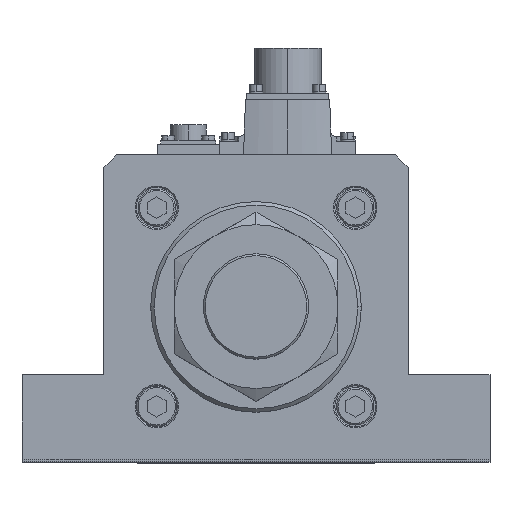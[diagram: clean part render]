
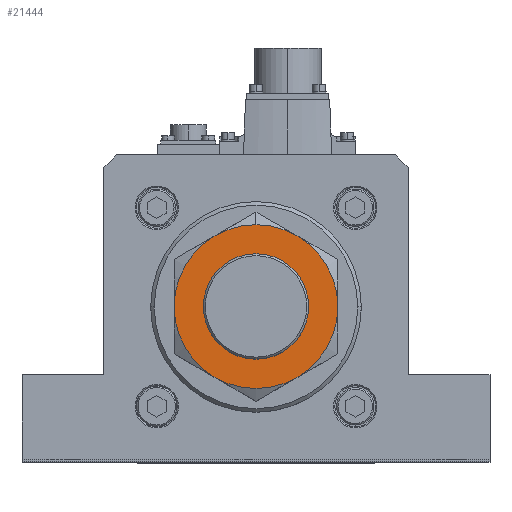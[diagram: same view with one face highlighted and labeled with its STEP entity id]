
A CAD part, top view. The second image highlights one B-rep face of the part: STEP entity #21444.
In plain terms, the highlighted planar face has unit normal (0, 0, 1).
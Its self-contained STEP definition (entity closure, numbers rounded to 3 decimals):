
#371 = DIRECTION ( 'NONE',  ( 0., 0., -1. ) ) ;
#716 = DIRECTION ( 'NONE',  ( 0., 0., -1. ) ) ;
#942 = DIRECTION ( 'NONE',  ( 0., 1., 0. ) ) ;
#1567 = CARTESIAN_POINT ( 'NONE',  ( -17.5, -30.311, 27. ) ) ;
#1620 = AXIS2_PLACEMENT_3D ( 'NONE', #5878, #21234, #39231 ) ;
#1946 = VERTEX_POINT ( 'NONE', #10734 ) ;
#2345 = EDGE_CURVE ( 'NONE', #25939, #32461, #14677, .T. ) ;
#2357 = VERTEX_POINT ( 'NONE', #25024 ) ;
#3989 = FACE_OUTER_BOUND ( 'NONE', #8527, .T. ) ;
#4010 = DIRECTION ( 'NONE',  ( 0., 0., -1. ) ) ;
#4357 = CARTESIAN_POINT ( 'NONE',  ( -17.5, 30.311, 27. ) ) ;
#5704 = EDGE_CURVE ( 'NONE', #1946, #18834, #6729, .T. ) ;
#5714 = ORIENTED_EDGE ( 'NONE', *, *, #2345, .F. ) ;
#5719 = DIRECTION ( 'NONE',  ( 0., 0., 1. ) ) ;
#5878 = CARTESIAN_POINT ( 'NONE',  ( 0., 0., 27. ) ) ;
#6729 = CIRCLE ( 'NONE', #21821, 35. ) ;
#7532 = ORIENTED_EDGE ( 'NONE', *, *, #13418, .F. ) ;
#8037 = VERTEX_POINT ( 'NONE', #33394 ) ;
#8527 = EDGE_LOOP ( 'NONE', ( #24398, #11870, #5714, #33192, #12635, #18359, #16218 ) ) ;
#8664 = EDGE_CURVE ( 'NONE', #18834, #21176, #22762, .T. ) ;
#10405 = CARTESIAN_POINT ( 'NONE',  ( 0., 0., 27. ) ) ;
#10623 = DIRECTION ( 'NONE',  ( 0., 0., 1. ) ) ;
#10734 = CARTESIAN_POINT ( 'NONE',  ( 17.5, -30.311, 27. ) ) ;
#11305 = AXIS2_PLACEMENT_3D ( 'NONE', #23068, #10623, #31857 ) ;
#11870 = ORIENTED_EDGE ( 'NONE', *, *, #33221, .F. ) ;
#12551 = CARTESIAN_POINT ( 'NONE',  ( 17.5, 30.311, 27. ) ) ;
#12635 = ORIENTED_EDGE ( 'NONE', *, *, #34594, .F. ) ;
#13418 = EDGE_CURVE ( 'NONE', #8037, #2357, #26929, .T. ) ;
#13652 = DIRECTION ( 'NONE',  ( 1., 0., 0. ) ) ;
#13937 = EDGE_CURVE ( 'NONE', #18922, #25939, #24041, .T. ) ;
#14677 = CIRCLE ( 'NONE', #27897, 35. ) ;
#16093 = VERTEX_POINT ( 'NONE', #35526 ) ;
#16113 = CIRCLE ( 'NONE', #38012, 35. ) ;
#16218 = ORIENTED_EDGE ( 'NONE', *, *, #5704, .F. ) ;
#16549 = CARTESIAN_POINT ( 'NONE',  ( 0., 0., 27. ) ) ;
#17408 = CIRCLE ( 'NONE', #34216, 35. ) ;
#17879 = CIRCLE ( 'NONE', #18381, 35. ) ;
#18036 = AXIS2_PLACEMENT_3D ( 'NONE', #36387, #5719, #27092 ) ;
#18187 = AXIS2_PLACEMENT_3D ( 'NONE', #37283, #716, #21840 ) ;
#18359 = ORIENTED_EDGE ( 'NONE', *, *, #8664, .F. ) ;
#18381 = AXIS2_PLACEMENT_3D ( 'NONE', #34122, #371, #27871 ) ;
#18834 = VERTEX_POINT ( 'NONE', #1567 ) ;
#18922 = VERTEX_POINT ( 'NONE', #4357 ) ;
#19740 = DIRECTION ( 'NONE',  ( 0., 1., 0. ) ) ;
#20782 = CARTESIAN_POINT ( 'NONE',  ( 0., 35., 27. ) ) ;
#21176 = VERTEX_POINT ( 'NONE', #37066 ) ;
#21234 = DIRECTION ( 'NONE',  ( 0., 0., -1. ) ) ;
#21444 = ADVANCED_FACE ( 'NONE', ( #3989, #36459 ), #26137, .T. ) ;
#21821 = AXIS2_PLACEMENT_3D ( 'NONE', #16549, #25891, #19740 ) ;
#21840 = DIRECTION ( 'NONE',  ( 0., 1., 0. ) ) ;
#22435 = DIRECTION ( 'NONE',  ( 0., 1., 0. ) ) ;
#22762 = CIRCLE ( 'NONE', #1620, 35. ) ;
#23068 = CARTESIAN_POINT ( 'NONE',  ( 0., 0., 27. ) ) ;
#23125 = DIRECTION ( 'NONE',  ( 0., 1., 0. ) ) ;
#23431 = EDGE_CURVE ( 'NONE', #2357, #8037, #38027, .T. ) ;
#24041 = CIRCLE ( 'NONE', #18187, 35. ) ;
#24398 = ORIENTED_EDGE ( 'NONE', *, *, #35124, .F. ) ;
#25024 = CARTESIAN_POINT ( 'NONE',  ( -22.5, 0., 27. ) ) ;
#25275 = CARTESIAN_POINT ( 'NONE',  ( 0., 0., 27. ) ) ;
#25709 = CARTESIAN_POINT ( 'NONE',  ( 0., 0., 27. ) ) ;
#25891 = DIRECTION ( 'NONE',  ( 0., 0., -1. ) ) ;
#25939 = VERTEX_POINT ( 'NONE', #20782 ) ;
#26137 = PLANE ( 'NONE',  #11305 ) ;
#26929 = CIRCLE ( 'NONE', #39633, 22.5 ) ;
#27092 = DIRECTION ( 'NONE',  ( 1., 0., 0. ) ) ;
#27871 = DIRECTION ( 'NONE',  ( 0., 1., 0. ) ) ;
#27897 = AXIS2_PLACEMENT_3D ( 'NONE', #25275, #4010, #942 ) ;
#31547 = DIRECTION ( 'NONE',  ( 0., 0., 1. ) ) ;
#31857 = DIRECTION ( 'NONE',  ( 1., 0., 0. ) ) ;
#32172 = CARTESIAN_POINT ( 'NONE',  ( 0., 0., 27. ) ) ;
#32461 = VERTEX_POINT ( 'NONE', #12551 ) ;
#33125 = ORIENTED_EDGE ( 'NONE', *, *, #23431, .F. ) ;
#33192 = ORIENTED_EDGE ( 'NONE', *, *, #13937, .F. ) ;
#33221 = EDGE_CURVE ( 'NONE', #32461, #16093, #16113, .T. ) ;
#33394 = CARTESIAN_POINT ( 'NONE',  ( 22.5, 0., 27. ) ) ;
#34122 = CARTESIAN_POINT ( 'NONE',  ( 0., 0., 27. ) ) ;
#34216 = AXIS2_PLACEMENT_3D ( 'NONE', #10405, #37623, #22435 ) ;
#34594 = EDGE_CURVE ( 'NONE', #21176, #18922, #17408, .T. ) ;
#34870 = EDGE_LOOP ( 'NONE', ( #33125, #7532 ) ) ;
#35124 = EDGE_CURVE ( 'NONE', #16093, #1946, #17879, .T. ) ;
#35243 = DIRECTION ( 'NONE',  ( 0., 0., -1. ) ) ;
#35526 = CARTESIAN_POINT ( 'NONE',  ( 35., 0., 27. ) ) ;
#36387 = CARTESIAN_POINT ( 'NONE',  ( 0., 0., 27. ) ) ;
#36459 = FACE_BOUND ( 'NONE', #34870, .T. ) ;
#37066 = CARTESIAN_POINT ( 'NONE',  ( -35., 0., 27. ) ) ;
#37283 = CARTESIAN_POINT ( 'NONE',  ( 0., 0., 27. ) ) ;
#37623 = DIRECTION ( 'NONE',  ( 0., 0., -1. ) ) ;
#38012 = AXIS2_PLACEMENT_3D ( 'NONE', #32172, #35243, #23125 ) ;
#38027 = CIRCLE ( 'NONE', #18036, 22.5 ) ;
#39231 = DIRECTION ( 'NONE',  ( 0., 1., 0. ) ) ;
#39633 = AXIS2_PLACEMENT_3D ( 'NONE', #25709, #31547, #13652 ) ;
